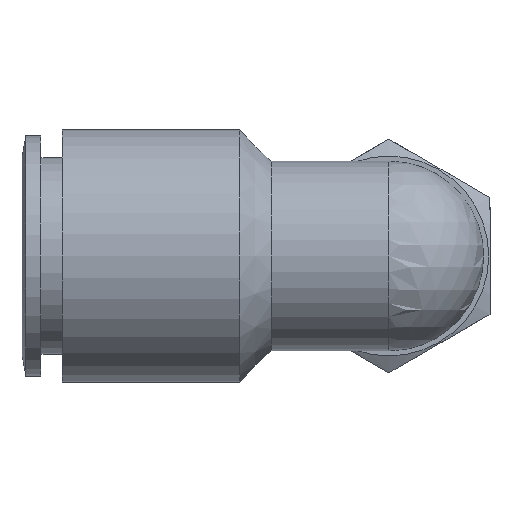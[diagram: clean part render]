
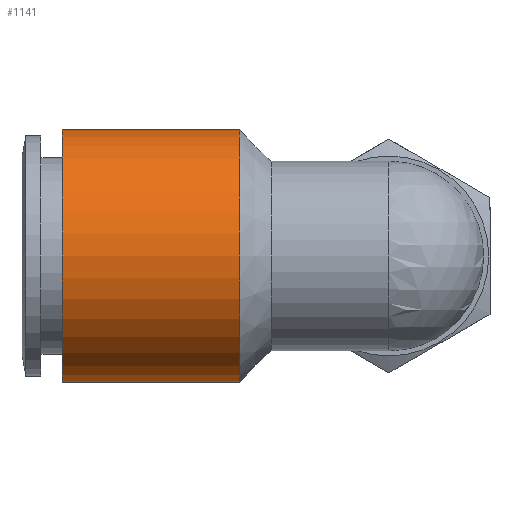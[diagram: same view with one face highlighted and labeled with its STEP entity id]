
A CAD part, left-side view. The second image highlights one B-rep face of the part: STEP entity #1141.
In plain terms, the highlighted cylindrical face has radius 10 mm (diameter 20 mm), a full revolution.
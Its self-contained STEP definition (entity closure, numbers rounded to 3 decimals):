
#1107=CARTESIAN_POINT('',(-10.0,11.8,0.0));
#1108=VERTEX_POINT('',#1107);
#1109=CARTESIAN_POINT('',(0.0,11.8,0.0));
#1110=DIRECTION('',(0.0,1.0,0.0));
#1111=DIRECTION('',(-1.0,0.0,0.0));
#1112=AXIS2_PLACEMENT_3D('',#1109,#1110,#1111);
#1113=CIRCLE('',#1112,10.0);
#1114=EDGE_CURVE('',#1108,#1108,#1113,.T.);
#1122=CARTESIAN_POINT('',(0.0,18.8,0.0));
#1123=DIRECTION('',(0.0,1.0,0.0));
#1124=DIRECTION('',(-1.0,0.0,0.0));
#1125=AXIS2_PLACEMENT_3D('',#1122,#1123,#1124);
#1126=CYLINDRICAL_SURFACE('',#1125,10.0);
#1127=CARTESIAN_POINT('',(-10.0,25.8,0.0));
#1128=VERTEX_POINT('',#1127);
#1129=CARTESIAN_POINT('',(0.0,25.8,0.0));
#1130=DIRECTION('',(0.0,1.0,0.0));
#1131=DIRECTION('',(-1.0,0.0,0.0));
#1132=AXIS2_PLACEMENT_3D('',#1129,#1130,#1131);
#1133=CIRCLE('',#1132,10.0);
#1134=EDGE_CURVE('',#1128,#1128,#1133,.T.);
#1135=ORIENTED_EDGE('',*,*,#1134,.F.);
#1136=EDGE_LOOP('',(#1135));
#1137=FACE_OUTER_BOUND('',#1136,.T.);
#1138=ORIENTED_EDGE('',*,*,#1114,.T.);
#1139=EDGE_LOOP('',(#1138));
#1140=FACE_BOUND('',#1139,.T.);
#1141=ADVANCED_FACE('',(#1137,#1140),#1126,.T.);
